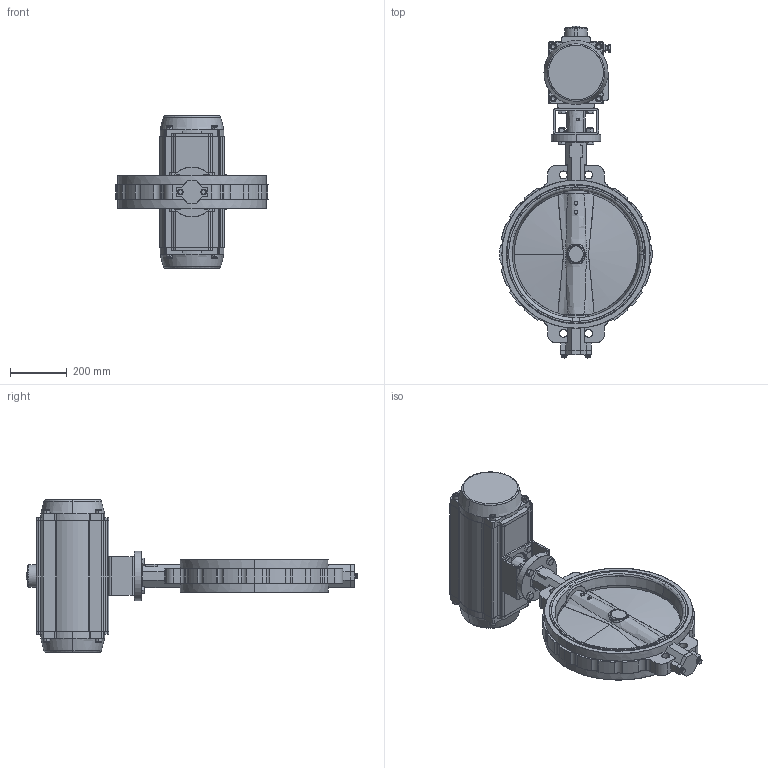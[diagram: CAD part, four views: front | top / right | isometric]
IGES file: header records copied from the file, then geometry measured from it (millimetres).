
Start section: SolidWorks IGES file using analytic representation for surfaces
Global section: file name: \\Svr-plm-be\BE\BE BIBLIOTHEQUE 3D\BE SECTION 01 - ROBINETS A PAPILLON_VANNES PASSAGE DIRECTE\VP - Vanne Papillon\VPE\WORLDVALVE\WAFER\TECLARGE\VPE440X-N03\PN10\DN450\VPE440X-N03XX0450.IGS; native system: SolidWorks 2017; preprocessor: SolidWorks 2017; author: k.gigout; date: 200817.170754; units: millimetre
Bounding box: 537 x 1169.97 x 536 mm (x, y, z)
Surface area: 1908757.9 mm2 (no closed solid volume)
Topology: 0 solids, 0 shells, 784 faces, 14710 edges, 14710 vertices
Faces by surface type: bspline 402, revolution 382
